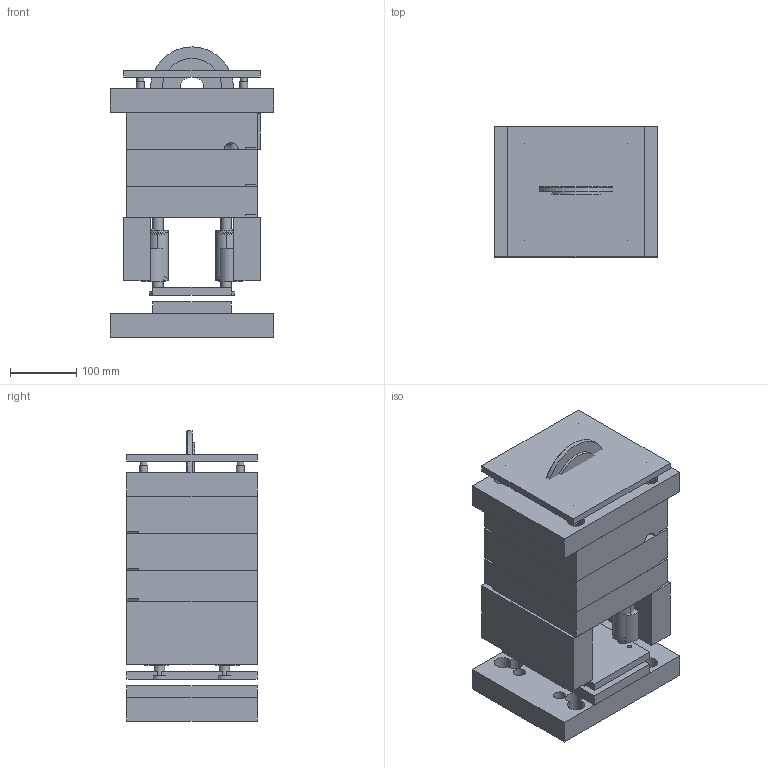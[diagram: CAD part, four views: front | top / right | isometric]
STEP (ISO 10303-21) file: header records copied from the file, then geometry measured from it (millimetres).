
FILE_DESCRIPTION(('Open CASCADE Model'),'2;1');
FILE_NAME('Open CASCADE Shape Model','2026-07-12T17:43:46',('Author'),( 'Open CASCADE'),'Open CASCADE STEP processor 7.9','Open CASCADE 7.9' ,'Unknown');
FILE_SCHEMA(('AUTOMOTIVE_DESIGN { 1 0 10303 214 1 1 1 1 }'));
Length unit declared in the file: millimetre
Products named in the file (70): mold_builder_assembly; Fixed_Half; cavity_plate; clamp_fixed; guide_pin_0; guide_pin_1; guide_pin_2; guide_pin_3; guide_bushing_0; guide_bushing_1; guide_bushing_2; guide_bushing_3; screw_top_0; screw_top_1; screw_top_2; screw_top_3; dowel_pin_0; dowel_pin_1; insulation_plate; sprue_bushing; locating_ring; gate_0; slide_1_K2528; Moving_Half; clamp_moving; support_plate; core_plate; spacer_block; support_pillar_0; support_pillar_1; support_pillar_2; support_pillar_3; screw_bot_0; screw_bot_1; screw_bot_2; screw_bot_3; cooling_channel_0; cooling_channel_1; cooling_channel_2; cooling_channel_3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
Assembly tree (69 placements, depth 3):
  mold_builder_assembly
    Fixed_Half
      cavity_plate
      clamp_fixed
      guide_pin_0
      guide_pin_1
      guide_pin_2
      guide_pin_3
      guide_bushing_0
      guide_bushing_1
      guide_bushing_2
      guide_bushing_3
      screw_top_0
      screw_top_1
      screw_top_2
      screw_top_3
      dowel_pin_0
      dowel_pin_1
      insulation_plate
      sprue_bushing
      locating_ring
      gate_0
      slide_1_K2528
    Moving_Half
      clamp_moving
      support_plate
      core_plate
      spacer_block
      support_pillar_0
      support_pillar_1
      support_pillar_2
      support_pillar_3
      screw_bot_0
      screw_bot_1
      screw_bot_2
      screw_bot_3
      cooling_channel_0
      cooling_channel_1
      cooling_channel_2
      cooling_channel_3
      cooling_channel_4
      cooling_channel_5
      cooling_channel_6
      cooling_channel_7
      cooling_channel_8
      cooling_channel_9
      cooling_uturn_0
      cooling_uturn_1
      cooling_uturn_2
      cooling_uturn_3
      cooling_uturn_4
      cooling_uturn_5
      cooling_uturn_6
      cooling_uturn_7
      cooling_uturn_8
      cooling_inlet
      cooling_outlet
      cooling_oring_inlet
      cooling_oring_outlet
    Ejection
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Bounding box: 246 x 196 x 437.5 mm (x, y, z)
Volume: 12880656 mm3; surface area: 1572912.3 mm2
Topology: 98 solids, 98 shells, 1078 faces, 2255 edges, 1416 vertices
Faces by surface type: plane 507, cylinder 394, cone 114, bspline 32, torus 19, sphere 12
Full cylindrical faces by diameter (mm): 4 x5, 6 x19, 6.8 x4, 9.728 x2, 10.2 x8, 11 x8, 11.4 x2, 11.98 x8, 12 x18, 12.623 x1, 13.5 x8, 15 x2, 16 x5, 16.1 x8, 16.6 x4, 18 x16, 18.452 x2, 20 x8, 20.502 x1, 24 x4, 24.1 x4, 28 x6, 90 x1, 125 x1
Entity records: 70481 total; most frequent: CARTESIAN_POINT 23470, DIRECTION 9049, ORIENTED_EDGE 4408, PCURVE 4408, DEFINITIONAL_REPRESENTATION 4408, LINE 4289, VECTOR 4289, EDGE_CURVE 2204
